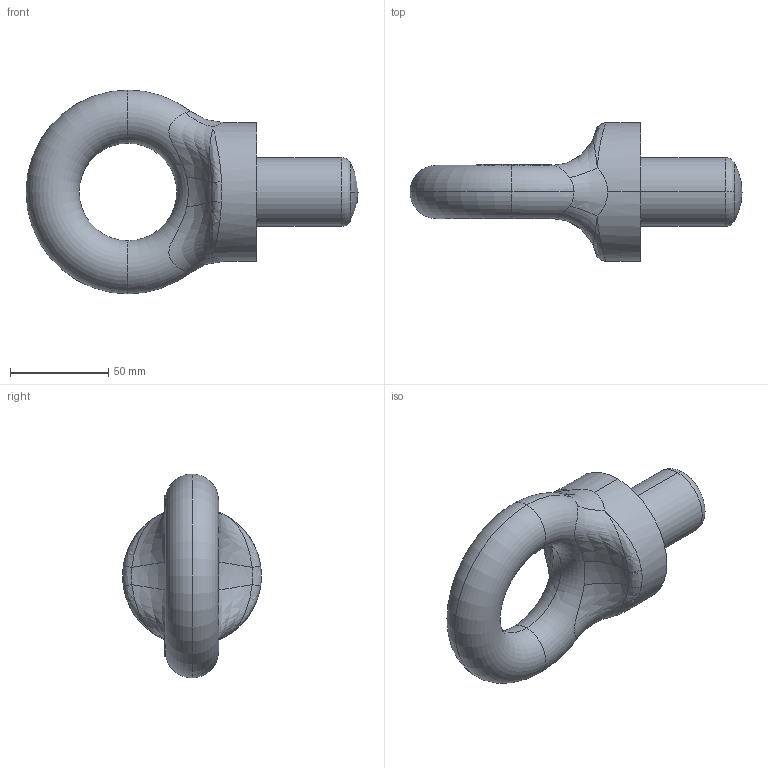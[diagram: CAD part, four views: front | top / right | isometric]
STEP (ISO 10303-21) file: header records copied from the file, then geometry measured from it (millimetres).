
FILE_DESCRIPTION (( 'STEP AP203' ), '1' );
FILE_NAME ('4T Eyebolt.STEP', '2010-01-11T00:41:11', ( ' ' ), ( ' ' ), 'SwSTEP 2.0', 'SolidWorks 2003240', '' );
FILE_SCHEMA (( 'CONFIG_CONTROL_DESIGN' ));
Length unit declared in the file: millimetre
Products named in the file (1): 4T Eyebolt
Bounding box: 168.55 x 70.5 x 103.5 mm (x, y, z)
Volume: 278659.9 mm3; surface area: 34232.5 mm2
Topology: 1 solids, 1 shells, 227 faces, 609 edges, 399 vertices
Faces by surface type: plane 131, bspline 62, torus 28, cylinder 4, sphere 2
Entity records: 33955 total; most frequent: CARTESIAN_POINT 29132, ORIENTED_EDGE 1210, EDGE_CURVE 605, DIRECTION 588, VERTEX_POINT 399, B_SPLINE_CURVE_WITH_KNOTS 386, EDGE_LOOP 248, FACE_OUTER_BOUND 227
